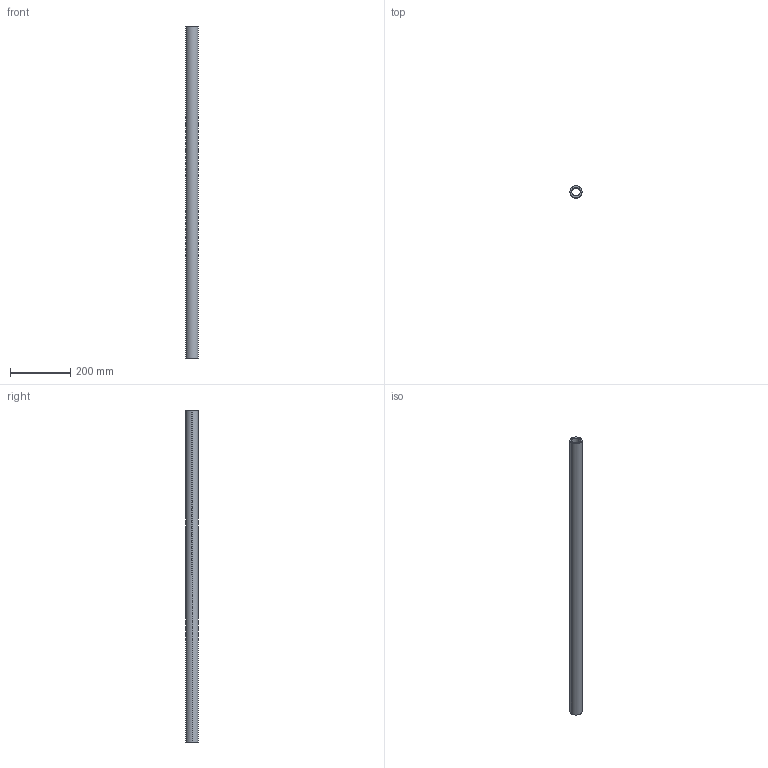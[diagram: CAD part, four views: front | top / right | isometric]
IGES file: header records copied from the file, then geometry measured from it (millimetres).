
Start section: SolidWorks IGES file using analytic representation for surfaces
Global section: file name: C:\Users\IanO\Desktop\L1771_v2\L1771.40_v2\L1771.40_v2_20230705_IGES\L1771.40-1100.igs; native system: SolidWorks 2019; preprocessor: SolidWorks 2019; author: IanO; date: 230705.160403; units: millimetre
Bounding box: 40 x 40 x 1100 mm (x, y, z)
Surface area: 236272.9 mm2 (no closed solid volume)
Topology: 0 solids, 0 shells, 6 faces, 272 edges, 272 vertices
Faces by surface type: revolution 4, bspline 2
